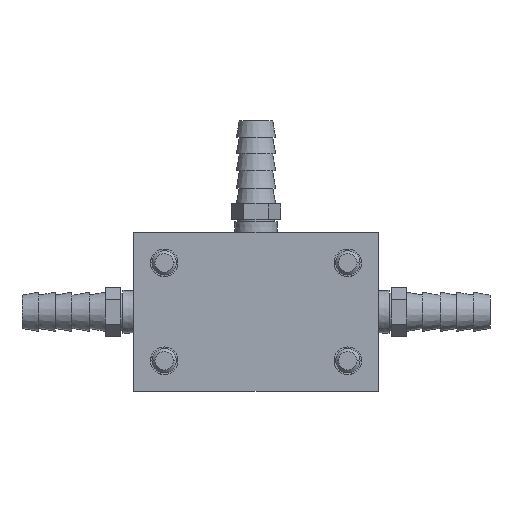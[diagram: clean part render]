
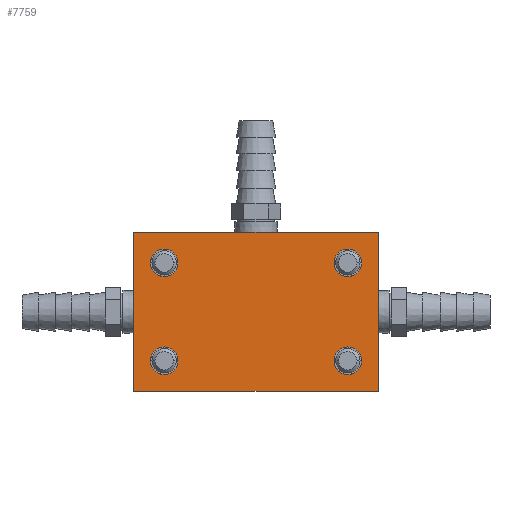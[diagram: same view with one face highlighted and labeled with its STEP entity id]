
A CAD part, left-side view. The second image highlights one B-rep face of the part: STEP entity #7759.
In plain terms, the highlighted planar face has unit normal (-1, 0, 0).
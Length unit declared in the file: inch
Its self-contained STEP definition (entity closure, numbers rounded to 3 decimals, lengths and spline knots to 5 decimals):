
#7497=CARTESIAN_POINT('',(-3.625,-0.9375,-0.5));
#7498=DIRECTION('',(1.,0.,0.));
#7499=DIRECTION('',(0.,-1.,0.));
#7500=AXIS2_PLACEMENT_3D('',#7497,#7498,#7499);
#7502=CARTESIAN_POINT('',(-3.625,-0.9375,-0.5));
#7503=DIRECTION('',(1.,0.,0.));
#7504=DIRECTION('',(0.,1.,0.));
#7505=AXIS2_PLACEMENT_3D('',#7502,#7503,#7504);
#7507=CARTESIAN_POINT('',(-3.625,0.9375,-0.5));
#7508=DIRECTION('',(1.,0.,0.));
#7509=DIRECTION('',(0.,-1.,0.));
#7510=AXIS2_PLACEMENT_3D('',#7507,#7508,#7509);
#7512=CARTESIAN_POINT('',(-3.625,0.9375,-0.5));
#7513=DIRECTION('',(1.,0.,0.));
#7514=DIRECTION('',(0.,1.,0.));
#7515=AXIS2_PLACEMENT_3D('',#7512,#7513,#7514);
#7517=CARTESIAN_POINT('',(-3.625,0.9375,0.5));
#7518=DIRECTION('',(1.,0.,0.));
#7519=DIRECTION('',(0.,-1.,0.));
#7520=AXIS2_PLACEMENT_3D('',#7517,#7518,#7519);
#7522=CARTESIAN_POINT('',(-3.625,0.9375,0.5));
#7523=DIRECTION('',(1.,0.,0.));
#7524=DIRECTION('',(0.,1.,0.));
#7525=AXIS2_PLACEMENT_3D('',#7522,#7523,#7524);
#7527=CARTESIAN_POINT('',(-3.625,-0.9375,0.5));
#7528=DIRECTION('',(1.,0.,0.));
#7529=DIRECTION('',(0.,-1.,0.));
#7530=AXIS2_PLACEMENT_3D('',#7527,#7528,#7529);
#7532=CARTESIAN_POINT('',(-3.625,-0.9375,0.5));
#7533=DIRECTION('',(1.,0.,0.));
#7534=DIRECTION('',(0.,1.,0.));
#7535=AXIS2_PLACEMENT_3D('',#7532,#7533,#7534);
#7629=DIRECTION('',(0.,0.,-1.));
#7630=VECTOR('',#7629,1.625);
#7631=CARTESIAN_POINT('',(-3.625,-1.25,0.8125));
#7632=LINE('',#7631,#7630);
#7637=DIRECTION('',(0.,1.,0.));
#7638=VECTOR('',#7637,2.5);
#7639=CARTESIAN_POINT('',(-3.625,-1.25,-0.8125));
#7640=LINE('',#7639,#7638);
#7641=DIRECTION('',(0.,0.,1.));
#7642=VECTOR('',#7641,1.625);
#7643=CARTESIAN_POINT('',(-3.625,1.25,-0.8125));
#7644=LINE('',#7643,#7642);
#7649=DIRECTION('',(0.,-1.,0.));
#7650=VECTOR('',#7649,2.5);
#7651=CARTESIAN_POINT('',(-3.625,1.25,0.8125));
#7652=LINE('',#7651,#7650);
#7661=CARTESIAN_POINT('',(-3.625,-1.25,-0.8125));
#7662=CARTESIAN_POINT('',(-3.625,1.25,-0.8125));
#7663=VERTEX_POINT('',#7661);
#7664=VERTEX_POINT('',#7662);
#7667=CARTESIAN_POINT('',(-3.625,-1.25,0.8125));
#7668=VERTEX_POINT('',#7667);
#7669=CARTESIAN_POINT('',(-3.625,1.25,0.8125));
#7670=VERTEX_POINT('',#7669);
#7673=CARTESIAN_POINT('',(-3.625,1.07813,0.5));
#7675=VERTEX_POINT('',#7673);
#7677=CARTESIAN_POINT('',(-3.625,0.79688,0.5));
#7679=VERTEX_POINT('',#7677);
#7681=CARTESIAN_POINT('',(-3.625,-0.79688,0.5));
#7683=VERTEX_POINT('',#7681);
#7685=CARTESIAN_POINT('',(-3.625,-1.07813,0.5));
#7687=VERTEX_POINT('',#7685);
#7689=CARTESIAN_POINT('',(-3.625,1.07813,-0.5));
#7691=VERTEX_POINT('',#7689);
#7693=CARTESIAN_POINT('',(-3.625,0.79688,-0.5));
#7695=VERTEX_POINT('',#7693);
#7697=CARTESIAN_POINT('',(-3.625,-0.79688,-0.5));
#7699=VERTEX_POINT('',#7697);
#7701=CARTESIAN_POINT('',(-3.625,-1.07813,-0.5));
#7703=VERTEX_POINT('',#7701);
#7721=CARTESIAN_POINT('',(-3.625,0.,0.));
#7722=DIRECTION('',(1.,0.,0.));
#7723=DIRECTION('',(0.,-1.,0.));
#7724=AXIS2_PLACEMENT_3D('',#7721,#7722,#7723);
#7725=PLANE('',#7724);
#7727=ORIENTED_EDGE('',*,*,#7726,.T.);
#7729=ORIENTED_EDGE('',*,*,#7728,.T.);
#7731=ORIENTED_EDGE('',*,*,#7730,.T.);
#7733=ORIENTED_EDGE('',*,*,#7732,.T.);
#7734=EDGE_LOOP('',(#7727,#7729,#7731,#7733));
#7735=FACE_OUTER_BOUND('',#7734,.F.);
#7737=ORIENTED_EDGE('',*,*,#7736,.F.);
#7739=ORIENTED_EDGE('',*,*,#7738,.F.);
#7740=EDGE_LOOP('',(#7737,#7739));
#7741=FACE_BOUND('',#7740,.F.);
#7742=ORIENTED_EDGE('',*,*,#7710,.F.);
#7744=ORIENTED_EDGE('',*,*,#7743,.F.);
#7745=EDGE_LOOP('',(#7742,#7744));
#7746=FACE_BOUND('',#7745,.F.);
#7748=ORIENTED_EDGE('',*,*,#7747,.F.);
#7750=ORIENTED_EDGE('',*,*,#7749,.F.);
#7751=EDGE_LOOP('',(#7748,#7750));
#7752=FACE_BOUND('',#7751,.F.);
#7754=ORIENTED_EDGE('',*,*,#7753,.F.);
#7756=ORIENTED_EDGE('',*,*,#7755,.F.);
#7757=EDGE_LOOP('',(#7754,#7756));
#7758=FACE_BOUND('',#7757,.F.);
#7501=CIRCLE('',#7500,0.14063);
#7506=CIRCLE('',#7505,0.14063);
#7511=CIRCLE('',#7510,0.14063);
#7516=CIRCLE('',#7515,0.14063);
#7521=CIRCLE('',#7520,0.14063);
#7526=CIRCLE('',#7525,0.14063);
#7531=CIRCLE('',#7530,0.14063);
#7536=CIRCLE('',#7535,0.14063);
#7710=EDGE_CURVE('',#7679,#7675,#7521,.T.);
#7726=EDGE_CURVE('',#7663,#7664,#7640,.T.);
#7728=EDGE_CURVE('',#7664,#7670,#7644,.T.);
#7730=EDGE_CURVE('',#7670,#7668,#7652,.T.);
#7732=EDGE_CURVE('',#7668,#7663,#7632,.T.);
#7736=EDGE_CURVE('',#7695,#7691,#7511,.T.);
#7738=EDGE_CURVE('',#7691,#7695,#7516,.T.);
#7743=EDGE_CURVE('',#7675,#7679,#7526,.T.);
#7747=EDGE_CURVE('',#7687,#7683,#7531,.T.);
#7749=EDGE_CURVE('',#7683,#7687,#7536,.T.);
#7753=EDGE_CURVE('',#7703,#7699,#7501,.T.);
#7755=EDGE_CURVE('',#7699,#7703,#7506,.T.);
#7759=ADVANCED_FACE('',(#7735,#7741,#7746,#7752,#7758),#7725,.F.);
